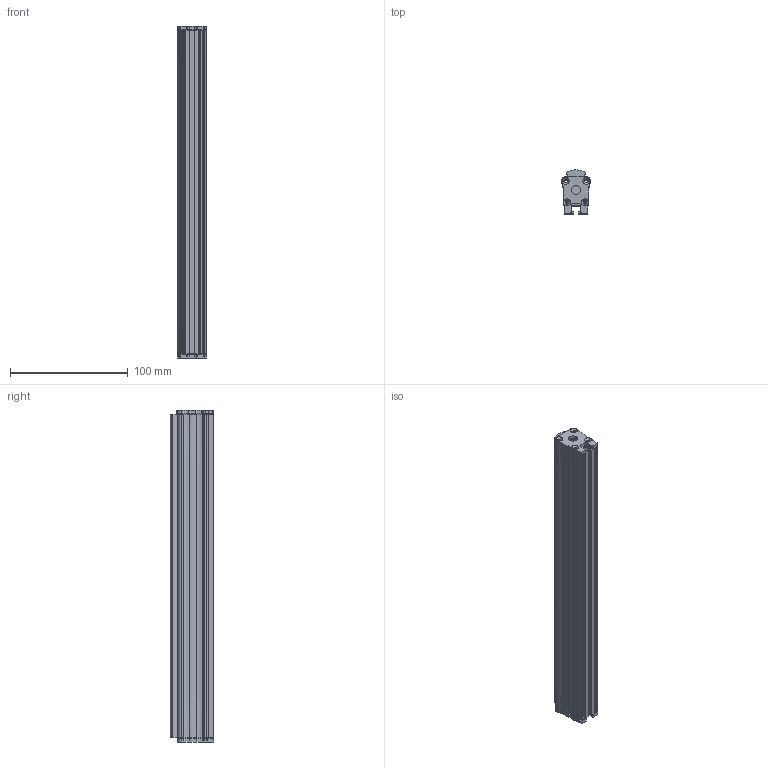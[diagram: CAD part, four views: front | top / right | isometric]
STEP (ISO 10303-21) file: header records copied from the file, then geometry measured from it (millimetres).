
FILE_DESCRIPTION(('STEP AP214'),'1');
FILE_NAME('lin+op 254.stp','2021-02-15T14:41:13',('Blanc'),('Phlox'),'Spatial InterOp 3D',' ',' ');
FILE_SCHEMA(('AUTOMOTIVE_DESIGN { 1 0 10303 214 1 1 1 1 }'));
Length unit declared in the file: inch
Products named in the file (1): Pièce_83634808
Bounding box: 24.54 x 37.28 x 282.06 mm (x, y, z)
Volume: 103955.4 mm3; surface area: 87114.7 mm2
Topology: 6 solids, 6 shells, 380 faces, 1090 edges, 718 vertices
Faces by surface type: cylinder 211, plane 103, bspline 36, cone 16, extrusion 14
Entity records: 25348 total; most frequent: CARTESIAN_POINT 7362, ORIENTED_EDGE 2180, DIRECTION 2086, STYLED_ITEM 1345, PRESENTATION_STYLE_ASSIGNMENT 1345, COLOUR_RGB 1345, EDGE_CURVE 1090, CURVE_STYLE 959
